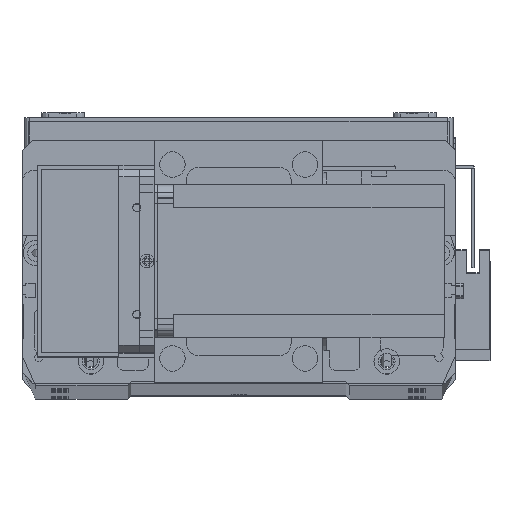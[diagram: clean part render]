
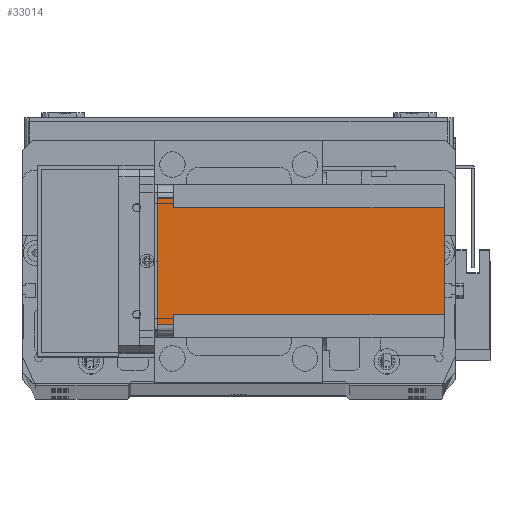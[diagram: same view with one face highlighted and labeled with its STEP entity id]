
A CAD part, top view. The second image highlights one B-rep face of the part: STEP entity #33014.
In plain terms, the highlighted planar face has unit normal (0, 0, 1) as drawn and (-1, 0, 0) by its records, which use the part's own axes.
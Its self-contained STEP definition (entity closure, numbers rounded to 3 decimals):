
#711 = EDGE_CURVE ( 'NONE', #22569, #29705, #10152, .T. ) ;
#1156 = LINE ( 'NONE', #24013, #7439 ) ;
#2670 = VECTOR ( 'NONE', #11037, 1000. ) ;
#3969 = VERTEX_POINT ( 'NONE', #25180 ) ;
#4202 = LINE ( 'NONE', #24741, #24720 ) ;
#4379 = VERTEX_POINT ( 'NONE', #13642 ) ;
#4812 = ORIENTED_EDGE ( 'NONE', *, *, #13822, .T. ) ;
#4814 = ORIENTED_EDGE ( 'NONE', *, *, #32254, .F. ) ;
#5677 = FACE_OUTER_BOUND ( 'NONE', #26878, .T. ) ;
#5736 = EDGE_CURVE ( 'NONE', #4379, #8157, #23200, .T. ) ;
#6622 = ORIENTED_EDGE ( 'NONE', *, *, #711, .F. ) ;
#6814 = VERTEX_POINT ( 'NONE', #27703 ) ;
#7071 = LINE ( 'NONE', #31189, #34764 ) ;
#7439 = VECTOR ( 'NONE', #32210, 1000. ) ;
#7871 = AXIS2_PLACEMENT_3D ( 'NONE', #26668, #10621, #29360 ) ;
#8140 = CARTESIAN_POINT ( 'NONE',  ( 0., 0., -112.5 ) ) ;
#8157 = VERTEX_POINT ( 'NONE', #15898 ) ;
#8255 = EDGE_CURVE ( 'NONE', #3969, #11402, #1156, .T. ) ;
#8371 = CARTESIAN_POINT ( 'NONE',  ( 0., 9., -112.5 ) ) ;
#8651 = CARTESIAN_POINT ( 'NONE',  ( 0., 0., -6.5 ) ) ;
#10152 = LINE ( 'NONE', #8371, #15579 ) ;
#10492 = VECTOR ( 'NONE', #16076, 1000. ) ;
#10621 = DIRECTION ( 'NONE',  ( -1., 0., 0. ) ) ;
#11037 = DIRECTION ( 'NONE',  ( 0., 0., 1. ) ) ;
#11319 = LINE ( 'NONE', #8140, #10492 ) ;
#11402 = VERTEX_POINT ( 'NONE', #29795 ) ;
#12716 = VERTEX_POINT ( 'NONE', #19672 ) ;
#12901 = ORIENTED_EDGE ( 'NONE', *, *, #5736, .F. ) ;
#13642 = CARTESIAN_POINT ( 'NONE',  ( 0., 51., -112.5 ) ) ;
#13822 = EDGE_CURVE ( 'NONE', #12716, #6814, #18067, .T. ) ;
#14534 = EDGE_CURVE ( 'NONE', #8157, #6814, #4202, .T. ) ;
#14686 = ORIENTED_EDGE ( 'NONE', *, *, #27854, .F. ) ;
#15289 = ORIENTED_EDGE ( 'NONE', *, *, #14534, .F. ) ;
#15579 = VECTOR ( 'NONE', #27082, 1000. ) ;
#15898 = CARTESIAN_POINT ( 'NONE',  ( 0., 51., -6.5 ) ) ;
#16076 = DIRECTION ( 'NONE',  ( 0., -1., 0. ) ) ;
#17216 = VECTOR ( 'NONE', #23871, 1000. ) ;
#18067 = LINE ( 'NONE', #21169, #17216 ) ;
#19672 = CARTESIAN_POINT ( 'NONE',  ( 0., 55., 0. ) ) ;
#20536 = DIRECTION ( 'NONE',  ( 0., -1., 0. ) ) ;
#21169 = CARTESIAN_POINT ( 'NONE',  ( 0., 55., -112.5 ) ) ;
#22569 = VERTEX_POINT ( 'NONE', #23529 ) ;
#23127 = CARTESIAN_POINT ( 'NONE',  ( 0., 9., -112.5 ) ) ;
#23200 = LINE ( 'NONE', #24628, #2670 ) ;
#23529 = CARTESIAN_POINT ( 'NONE',  ( 0., 9., -6.5 ) ) ;
#23871 = DIRECTION ( 'NONE',  ( 0., 0., -1. ) ) ;
#24013 = CARTESIAN_POINT ( 'NONE',  ( 0., 5., -112.5 ) ) ;
#24628 = CARTESIAN_POINT ( 'NONE',  ( 0., 51., -112.5 ) ) ;
#24688 = DIRECTION ( 'NONE',  ( 0., 1., 0. ) ) ;
#24720 = VECTOR ( 'NONE', #32834, 1000. ) ;
#24741 = CARTESIAN_POINT ( 'NONE',  ( 0., 60., -6.5 ) ) ;
#24985 = LINE ( 'NONE', #8651, #32099 ) ;
#25180 = CARTESIAN_POINT ( 'NONE',  ( 0., 5., -6.5 ) ) ;
#26668 = CARTESIAN_POINT ( 'NONE',  ( 0., 0., -112.5 ) ) ;
#26878 = EDGE_LOOP ( 'NONE', ( #14686, #28513, #4814, #4812, #15289, #12901, #34537, #6622 ) ) ;
#27082 = DIRECTION ( 'NONE',  ( 0., 0., -1. ) ) ;
#27703 = CARTESIAN_POINT ( 'NONE',  ( 0., 55., -6.5 ) ) ;
#27854 = EDGE_CURVE ( 'NONE', #3969, #22569, #24985, .T. ) ;
#28513 = ORIENTED_EDGE ( 'NONE', *, *, #8255, .T. ) ;
#29360 = DIRECTION ( 'NONE',  ( 0., -1., 0. ) ) ;
#29705 = VERTEX_POINT ( 'NONE', #23127 ) ;
#29795 = CARTESIAN_POINT ( 'NONE',  ( 0., 5., 0. ) ) ;
#31176 = EDGE_CURVE ( 'NONE', #4379, #29705, #11319, .T. ) ;
#31189 = CARTESIAN_POINT ( 'NONE',  ( 0., 0., 0. ) ) ;
#32099 = VECTOR ( 'NONE', #24688, 1000. ) ;
#32210 = DIRECTION ( 'NONE',  ( 0., 0., 1. ) ) ;
#32254 = EDGE_CURVE ( 'NONE', #12716, #11402, #7071, .T. ) ;
#32834 = DIRECTION ( 'NONE',  ( 0., 1., 0. ) ) ;
#33014 = ADVANCED_FACE ( 'NONE', ( #5677 ), #34678, .T. ) ;
#34537 = ORIENTED_EDGE ( 'NONE', *, *, #31176, .T. ) ;
#34678 = PLANE ( 'NONE',  #7871 ) ;
#34764 = VECTOR ( 'NONE', #20536, 1000. ) ;
